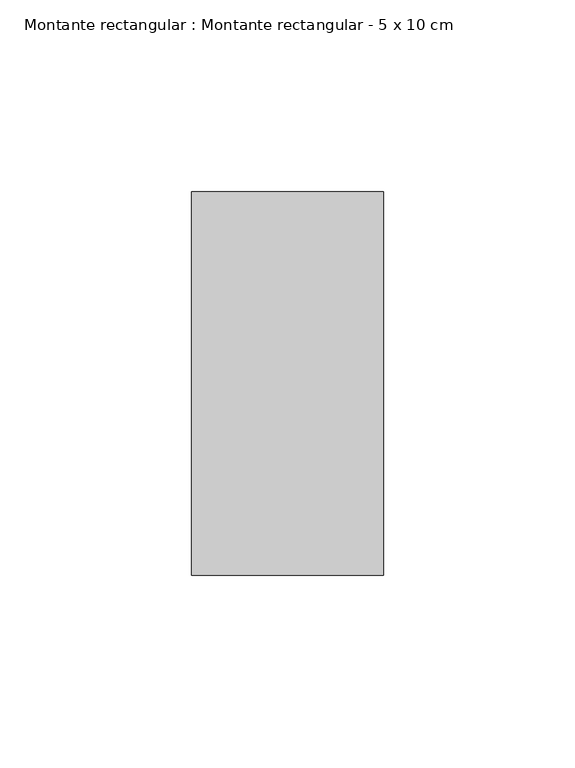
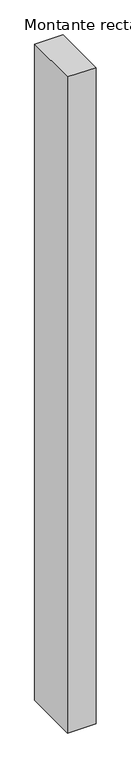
"""IFC4 building model written with IfcOpenShell, lengths in millimetres: member geometry, Montante rectangular : Montante rectangular - 5 x 10 cm."""

from ifc_helpers import new_model, si_unit, frame, origin, place, context, project, spatial, polyline, outline, extrude, source, transform, mapped, element, save


def montante_rectangular_montante_rectangular_5_x_10_cm_6debd4cc(model_context):
    return source(origin(), model_context, "Body", "SweptSolid", [
        extrude(outline(polyline([(-50.0, 50.0), (0.0, 50.0), (0.0, -50.0), (-50.0, -50.0), (-50.0, 50.0)])), frame((0.0, 0.0, -1218.3333333), z_axis=(0.0, 0.0, 1.0), x_axis=(1.0, 0.0, 0.0)), (0.0, 0.0, 1.0), 1218.3333333),
    ])


if __name__ == "__main__":
    model = new_model("IFC4")
    model_context = context("Model", 3, world=origin())
    ifc_project = project(units=[si_unit("LENGTHUNIT", "METRE", prefix="MILLI")], contexts=[model_context])
    site = spatial("IfcSite", under=ifc_project)
    building = spatial("IfcBuilding", under=site)
    placement = place(None, origin())
    montante_rectangular_montante_rectangular_5_x_10_cm_shape = montante_rectangular_montante_rectangular_5_x_10_cm_6debd4cc(model_context)
    element("IfcMember", 1, ObjectType="Montante rectangular : Montante rectangular - 5 x 10 cm", at=placement, inside=building, context=model_context, shape_type="MappedRepresentation", body=[
        mapped(montante_rectangular_montante_rectangular_5_x_10_cm_shape, transform((0.0, 0.0, 0.0), x_axis=(1.0, 0.0, 0.0), y_axis=(0.0, 1.0, 0.0), z_axis=(0.0, 0.0, 1.0))),
    ])
    save(model, "model.ifc")
